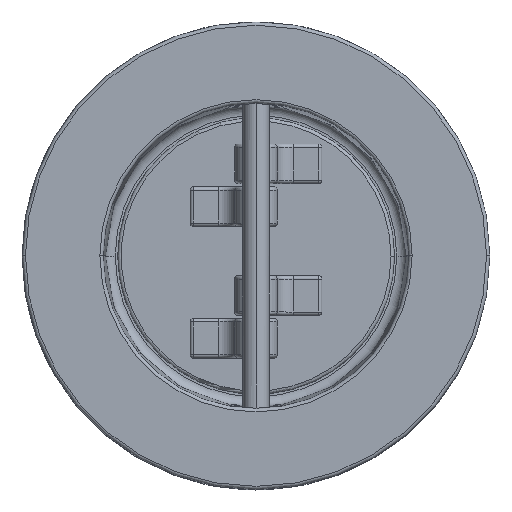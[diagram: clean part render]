
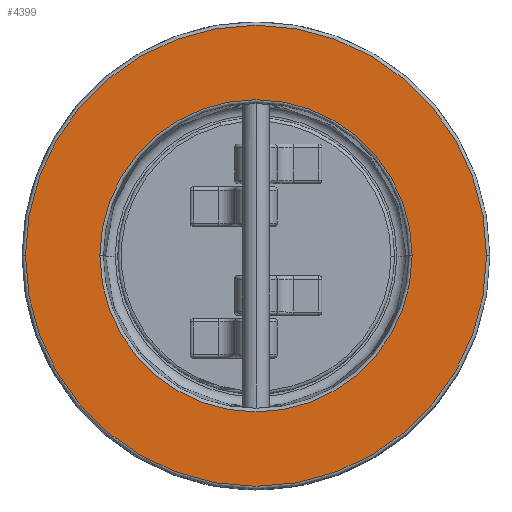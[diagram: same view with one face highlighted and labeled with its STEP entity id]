
A CAD part, top view. The second image highlights one B-rep face of the part: STEP entity #4399.
In plain terms, the highlighted planar face has unit normal (0, 0, 1).
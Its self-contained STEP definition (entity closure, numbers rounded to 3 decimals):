
#328 = EDGE_CURVE ( 'NONE', #5327, #12648, #7239, .T. ) ;
#507 = DIRECTION ( 'NONE',  ( 1., 0., 0. ) ) ;
#518 = DIRECTION ( 'NONE',  ( 0., 0., 1. ) ) ;
#650 = FACE_OUTER_BOUND ( 'NONE', #8986, .T. ) ;
#1398 = DIRECTION ( 'NONE',  ( 1., 0., 0. ) ) ;
#1549 = ORIENTED_EDGE ( 'NONE', *, *, #6678, .T. ) ;
#1802 = AXIS2_PLACEMENT_3D ( 'NONE', #7648, #518, #7785 ) ;
#1841 = CIRCLE ( 'NONE', #1802, 70. ) ;
#2066 = DIRECTION ( 'NONE',  ( 1., 0., 0. ) ) ;
#2168 = AXIS2_PLACEMENT_3D ( 'NONE', #9840, #9968, #1398 ) ;
#2338 = DIRECTION ( 'NONE',  ( 1., 0., 0. ) ) ;
#2525 = EDGE_LOOP ( 'NONE', ( #2967, #4182 ) ) ;
#2704 = AXIS2_PLACEMENT_3D ( 'NONE', #6941, #10119, #507 ) ;
#2967 = ORIENTED_EDGE ( 'NONE', *, *, #12537, .T. ) ;
#3141 = CARTESIAN_POINT ( 'NONE',  ( 70., 0., 32. ) ) ;
#4182 = ORIENTED_EDGE ( 'NONE', *, *, #12846, .T. ) ;
#4245 = CIRCLE ( 'NONE', #2704, 47.399 ) ;
#4399 = ADVANCED_FACE ( 'NONE', ( #8773, #650 ), #13203, .T. ) ;
#4464 = AXIS2_PLACEMENT_3D ( 'NONE', #6286, #11584, #2066 ) ;
#4870 = CARTESIAN_POINT ( 'NONE',  ( 0., 0., 32. ) ) ;
#4894 = CIRCLE ( 'NONE', #4464, 47.399 ) ;
#5327 = VERTEX_POINT ( 'NONE', #3141 ) ;
#6286 = CARTESIAN_POINT ( 'NONE',  ( 0., 0., 32. ) ) ;
#6678 = EDGE_CURVE ( 'NONE', #12648, #5327, #1841, .T. ) ;
#6941 = CARTESIAN_POINT ( 'NONE',  ( 0., 0., 32. ) ) ;
#7239 = CIRCLE ( 'NONE', #2168, 70. ) ;
#7648 = CARTESIAN_POINT ( 'NONE',  ( 0., 0., 32. ) ) ;
#7785 = DIRECTION ( 'NONE',  ( 1., 0., 0. ) ) ;
#8773 = FACE_BOUND ( 'NONE', #2525, .T. ) ;
#8986 = EDGE_LOOP ( 'NONE', ( #12361, #1549 ) ) ;
#9840 = CARTESIAN_POINT ( 'NONE',  ( 0., 0., 32. ) ) ;
#9968 = DIRECTION ( 'NONE',  ( 0., 0., 1. ) ) ;
#10064 = VERTEX_POINT ( 'NONE', #10456 ) ;
#10119 = DIRECTION ( 'NONE',  ( 0., 0., -1. ) ) ;
#10456 = CARTESIAN_POINT ( 'NONE',  ( -47.399, 0., 32. ) ) ;
#10762 = CARTESIAN_POINT ( 'NONE',  ( -70., 0., 32. ) ) ;
#10949 = CARTESIAN_POINT ( 'NONE',  ( 47.399, 0., 32. ) ) ;
#11069 = AXIS2_PLACEMENT_3D ( 'NONE', #4870, #11795, #2338 ) ;
#11584 = DIRECTION ( 'NONE',  ( 0., 0., -1. ) ) ;
#11648 = VERTEX_POINT ( 'NONE', #10949 ) ;
#11795 = DIRECTION ( 'NONE',  ( 0., 0., 1. ) ) ;
#12361 = ORIENTED_EDGE ( 'NONE', *, *, #328, .T. ) ;
#12537 = EDGE_CURVE ( 'NONE', #11648, #10064, #4894, .T. ) ;
#12648 = VERTEX_POINT ( 'NONE', #10762 ) ;
#12846 = EDGE_CURVE ( 'NONE', #10064, #11648, #4245, .T. ) ;
#13203 = PLANE ( 'NONE',  #11069 ) ;
